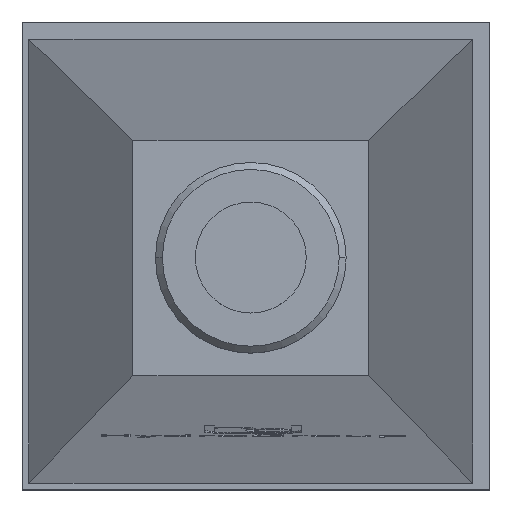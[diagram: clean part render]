
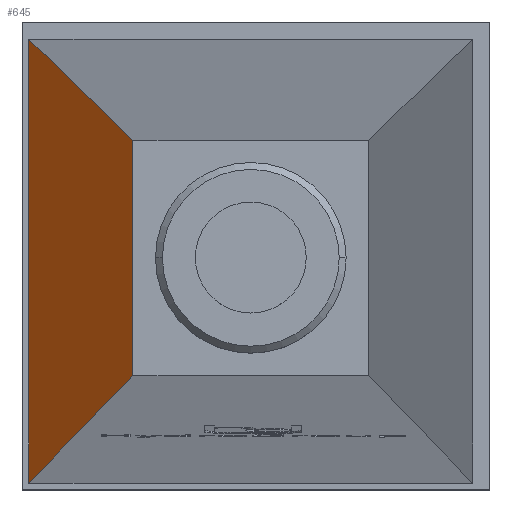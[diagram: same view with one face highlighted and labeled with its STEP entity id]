
A CAD part, top view. The second image highlights one B-rep face of the part: STEP entity #645.
In plain terms, the highlighted planar face has unit normal (-0.999, 0, 0.055).
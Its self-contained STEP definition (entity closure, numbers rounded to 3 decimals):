
#645=ADVANCED_FACE('',(#1316),#1317,.F.);
#1316=FACE_OUTER_BOUND('',#2051,.T.);
#1317=PLANE('',#2052);
#2051=EDGE_LOOP('',(#4011,#4012,#4013,#4014));
#2052=AXIS2_PLACEMENT_3D('',#4015,#4016,#4017);
#4011=ORIENTED_EDGE('',*,*,#4928,.F.);
#4012=ORIENTED_EDGE('',*,*,#4686,.F.);
#4013=ORIENTED_EDGE('',*,*,#4951,.F.);
#4014=ORIENTED_EDGE('',*,*,#4962,.T.);
#4015=CARTESIAN_POINT('',(202.628,349.275,1088.166));
#4016=DIRECTION('',(0.998,0.,-0.055));
#4017=DIRECTION('',(0.,-1.0,0.));
#4686=EDGE_CURVE('',#5649,#5645,#5651,.T.);
#4928=EDGE_CURVE('',#5645,#5969,#5970,.F.);
#4951=EDGE_CURVE('',#6000,#5649,#6002,.T.);
#4962=EDGE_CURVE('',#6000,#5969,#6015,.T.);
#5645=VERTEX_POINT('',#7306);
#5649=VERTEX_POINT('',#7312);
#5651=LINE('',#7315,#7316);
#5969=VERTEX_POINT('',#7893);
#5970=LINE('',#7894,#7895);
#6000=VERTEX_POINT('',#7939);
#6002=LINE('',#7942,#7943);
#6015=LINE('',#7961,#7962);
#7306=CARTESIAN_POINT('',(142.619,286.271,6.));
#7312=CARTESIAN_POINT('',(202.619,346.271,1088.));
#7315=CARTESIAN_POINT('',(202.836,346.488,1091.914));
#7316=VECTOR('',#8474,1.);
#7893=CARTESIAN_POINT('',(142.619,542.28,6.));
#7894=CARTESIAN_POINT('',(142.619,381.775,6.));
#7895=VECTOR('',#8646,1.0);
#7939=CARTESIAN_POINT('',(202.619,482.28,1088.));
#7942=CARTESIAN_POINT('',(202.619,381.775,1088.));
#7943=VECTOR('',#8662,1.0);
#7961=CARTESIAN_POINT('',(202.836,482.063,1091.914));
#7962=VECTOR('',#8668,1.);
#8474=DIRECTION('',(-0.055,-0.055,-0.997));
#8646=DIRECTION('',(0.,-1.0,0.));
#8662=DIRECTION('',(0.,-1.0,0.));
#8668=DIRECTION('',(-0.055,0.055,-0.997));
